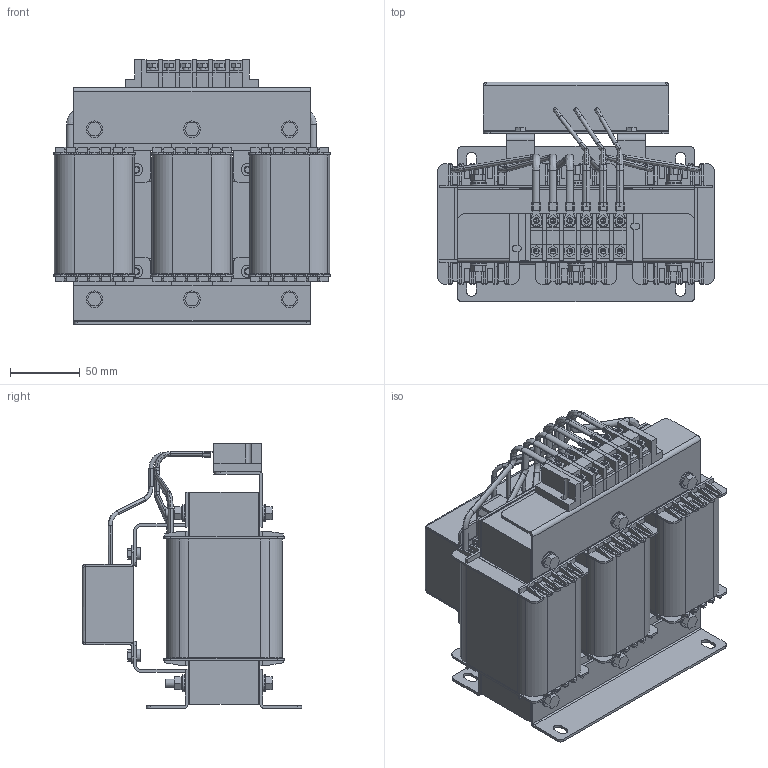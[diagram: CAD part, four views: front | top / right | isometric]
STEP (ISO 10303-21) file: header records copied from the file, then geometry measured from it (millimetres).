
FILE_DESCRIPTION (( 'STEP AP203' ), '1' );
FILE_NAME ('蔓躅漤铋 耔眢耥 翳朦蝠 _ ISINOF-2.2_6-4.STEP', '2026-07-16T09:13:18', ( '' ), ( '' ), 'SwSTEP 2.0', 'SolidWorks 2021', '' );
FILE_SCHEMA (( 'CONFIG_CONTROL_DESIGN' ));
Length unit declared in the file: millimetre
Products named in the file (165): 2.2KW滤波电抗器380V50Hz_108; 2.2KW滤波电抗器380V50Hz_163; 2.2KW滤波电抗器380V50Hz_89; 2.2KW滤波电抗器380V50Hz_147; 2.2KW滤波电抗器380V50Hz_111; 2.2KW滤波电抗器380V50Hz_18; 2.2KW滤波电抗器380V50Hz_49; 2.2KW滤波电抗器380V50Hz_105; 2.2KW滤波电抗器380V50Hz_29; 2.2KW滤波电抗器380V50Hz_50; 2.2KW滤波电抗器380V50Hz_85; 2.2KW滤波电抗器380V50Hz_141; 2.2KW滤波电抗器380V50Hz_102; 2.2KW滤波电抗器380V50Hz_157; 2.2KW滤波电抗器380V50Hz_56; 2.2KW滤波电抗器380V50Hz_72; 2.2KW滤波电抗器380V50Hz_11; 2.2KW滤波电抗器380V50Hz_154; 2.2KW滤波电抗器380V50Hz_13; 2.2KW滤波电抗器380V50Hz_26; 2.2KW滤波电抗器380V50Hz_59; 2.2KW滤波电抗器380V50Hz_31; 2.2KW滤波电抗器380V50Hz_81; 2.2KW滤波电抗器380V50Hz_14; 2.2KW滤波电抗器380V50Hz_104; 2.2KW滤波电抗器380V50Hz_23; 2.2KW滤波电抗器380V50Hz_135; 2.2KW滤波电抗器380V50Hz_55; 2.2KW滤波电抗器380V50Hz_27; 2.2KW滤波电抗器380V50Hz_114; 2.2KW滤波电抗器380V50Hz_120; 2.2KW滤波电抗器380V50Hz_73; 2.2KW滤波电抗器380V50Hz_53; 2.2KW滤波电抗器380V50Hz_100; 2.2KW滤波电抗器380V50Hz_139; 2.2KW滤波电抗器380V50Hz_126; 2.2KW滤波电抗器380V50Hz_107; 2.2KW滤波电抗器380V50Hz_134; 2.2KW滤波电抗器380V50Hz_88; 2.2KW滤波电抗器380V50Hz_28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
Assembly tree (164 placements, depth 2):
  蔓躅漤铋 耔眢耥 翳朦蝠 _ ISINOF-2.2_6-4
    2.2KW滤波电抗器380V50Hz_49
    2.2KW滤波电抗器380V50Hz_65
    2.2KW滤波电抗器380V50Hz_10
    2.2KW滤波电抗器380V50Hz_86
    2.2KW滤波电抗器380V50Hz_90
    2.2KW滤波电抗器380V50Hz_7
    2.2KW滤波电抗器380V50Hz_155
    2.2KW滤波电抗器380V50Hz_89
    2.2KW滤波电抗器380V50Hz_55
    2.2KW滤波电抗器380V50Hz_112
    2.2KW滤波电抗器380V50Hz_12
    2.2KW滤波电抗器380V50Hz_76
    2.2KW滤波电抗器380V50Hz_88
    2.2KW滤波电抗器380V50Hz_123
    2.2KW滤波电抗器380V50Hz_25
    2.2KW滤波电抗器380V50Hz_82
    2.2KW滤波电抗器380V50Hz_132
    2.2KW滤波电抗器380V50Hz_6
    2.2KW滤波电抗器380V50Hz_26
    2.2KW滤波电抗器380V50Hz_67
    2.2KW滤波电抗器380V50Hz_34
    2.2KW滤波电抗器380V50Hz_79
    2.2KW滤波电抗器380V50Hz_124
    2.2KW滤波电抗器380V50Hz_38
    2.2KW滤波电抗器380V50Hz_126
    2.2KW滤波电抗器380V50Hz_115
    2.2KW滤波电抗器380V50Hz_148
    2.2KW滤波电抗器380V50Hz_23
    2.2KW滤波电抗器380V50Hz_8
    2.2KW滤波电抗器380V50Hz_100
    2.2KW滤波电抗器380V50Hz_84
    2.2KW滤波电抗器380V50Hz_96
    2.2KW滤波电抗器380V50Hz_143
    2.2KW滤波电抗器380V50Hz_128
    2.2KW滤波电抗器380V50Hz_117
    2.2KW滤波电抗器380V50Hz_17
    2.2KW滤波电抗器380V50Hz_159
    2.2KW滤波电抗器380V50Hz_9
    2.2KW滤波电抗器380V50Hz_14
    2.2KW滤波电抗器380V50Hz_131
    2.2KW滤波电抗器380V50Hz_158
    2.2KW滤波电抗器380V50Hz_130
    2.2KW滤波电抗器380V50Hz_127
    2.2KW滤波电抗器380V50Hz_119
    2.2KW滤波电抗器380V50Hz_57
    2.2KW滤波电抗器380V50Hz_19
    2.2KW滤波电抗器380V50Hz_93
    2.2KW滤波电抗器380V50Hz_46
    2.2KW滤波电抗器380V50Hz_62
    2.2KW滤波电抗器380V50Hz_161
    2.2KW滤波电抗器380V50Hz_2
    2.2KW滤波电抗器380V50Hz_18
    2.2KW滤波电抗器380V50Hz_107
    2.2KW滤波电抗器380V50Hz_74
    2.2KW滤波电抗器380V50Hz_35
    2.2KW滤波电抗器380V50Hz_72
    2.2KW滤波电抗器380V50Hz_47
    2.2KW滤波电抗器380V50Hz_151
    2.2KW滤波电抗器380V50Hz_45
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Bounding box: 198.53 x 157.5 x 190 mm (x, y, z)
Volume: 1898791.8 mm3; surface area: 644073.9 mm2
Topology: 164 solids, 164 shells, 2482 faces, 6230 edges, 4098 vertices
Faces by surface type: plane 1760, cylinder 580, bspline 92, cone 32, torus 18
Entity records: 95797 total; most frequent: CARTESIAN_POINT 18641, ORIENTED_EDGE 12460, DIRECTION 11868, EDGE_CURVE 6230, LINE 4738, VECTOR 4738, VERTEX_POINT 4098, AXIS2_PLACEMENT_3D 3565
